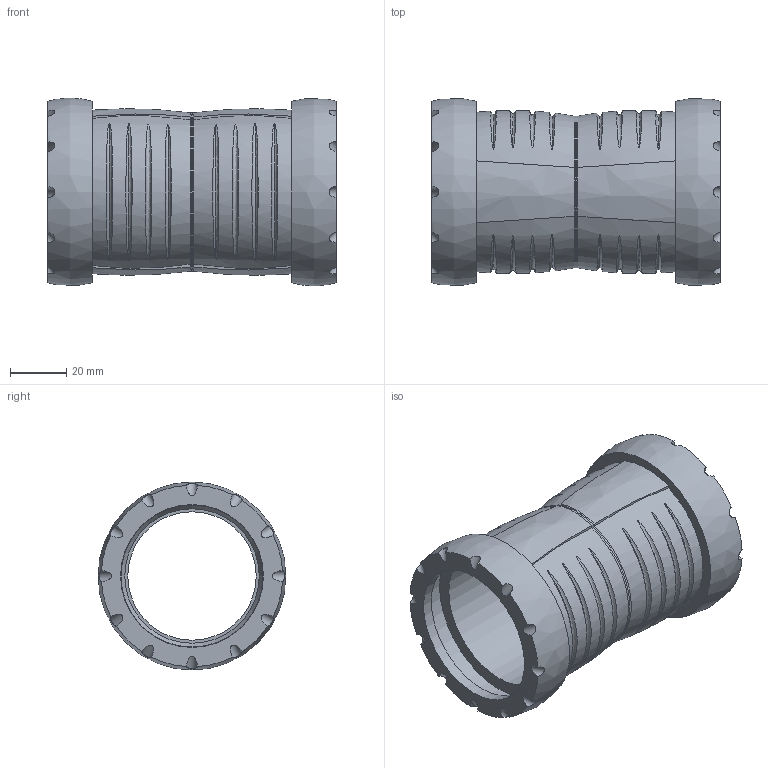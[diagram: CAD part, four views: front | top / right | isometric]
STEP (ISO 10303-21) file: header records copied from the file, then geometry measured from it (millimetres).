
FILE_DESCRIPTION(/* description */ (''),/* implementation_level */ '2;1');
FILE_NAME(/* name */ 'H:\Geberit-Teile\Export\Doppelsteckmuffe\stp\393216.stp',/* time_stamp */ '2017-02-14T08:56:57+01:00',/* author */ ('seihe2'),/* organization */ (''),/* preprocessor_version */ 'ST-DEVELOPER v15.2',/* originating_system */ 'Autodesk Inventor 2014',/* authorisation */ '');
FILE_SCHEMA (('AUTOMOTIVE_DESIGN { 1 0 10303 214 3 1 1 }'));
Length unit declared in the file: millimetre
Products named in the file (1): 393216
Bounding box: 103 x 66.84 x 67.07 mm (x, y, z)
Volume: 72289.6 mm3; surface area: 46330 mm2
Topology: 2 solids, 2 shells, 108 faces, 258 edges, 178 vertices
Faces by surface type: bspline 50, cylinder 36, plane 20, cone 2
Full cylindrical faces by diameter (mm): 45.9 x2, 50.7 x2, 51 x2, 60.1 x2
Entity records: 7739 total; most frequent: CARTESIAN_POINT 5477, ORIENTED_EDGE 492, DIRECTION 322, EDGE_CURVE 246, VERTEX_POINT 176, AXIS2_PLACEMENT_3D 153, EDGE_LOOP 146, B_SPLINE_CURVE_WITH_KNOTS 134
